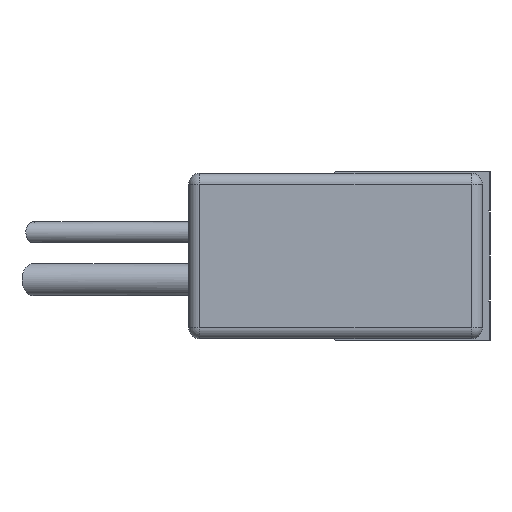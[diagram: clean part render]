
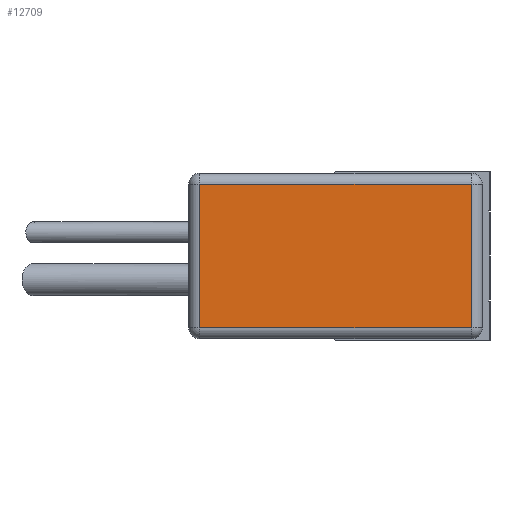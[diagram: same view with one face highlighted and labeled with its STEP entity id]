
A CAD part, left-side view. The second image highlights one B-rep face of the part: STEP entity #12709.
In plain terms, the highlighted planar face has unit normal (-1, 0, 0) as drawn and (0, 0, -1) by its records, which use the part's own axes.
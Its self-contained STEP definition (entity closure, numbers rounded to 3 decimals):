
#782=PLANE('',#20833);
#2400=VERTEX_POINT('',#19588);
#2401=VERTEX_POINT('',#19592);
#2405=VERTEX_POINT('',#19600);
#2410=VERTEX_POINT('',#19613);
#3748=VECTOR('',#15866,1.);
#3750=VECTOR('',#15870,1.);
#3752=VECTOR('',#15874,1.);
#3755=VECTOR('',#15881,1.);
#5077=LINE('',#19625,#3748);
#5079=LINE('',#19628,#3750);
#5081=LINE('',#19631,#3752);
#5084=LINE('',#19636,#3755);
#6818=EDGE_CURVE('',#2401,#2410,#5077,.T.);
#6820=EDGE_CURVE('',#2410,#2405,#5079,.T.);
#6822=EDGE_CURVE('',#2405,#2400,#5081,.T.);
#6825=EDGE_CURVE('',#2400,#2401,#5084,.T.);
#10315=ORIENTED_EDGE('',*,*,#6818,.F.);
#10316=ORIENTED_EDGE('',*,*,#6825,.F.);
#10317=ORIENTED_EDGE('',*,*,#6822,.F.);
#10318=ORIENTED_EDGE('',*,*,#6820,.F.);
#11187=EDGE_LOOP('',(#10315,#10316,#10317,#10318));
#11994=FACE_BOUND('',#11187,.T.);
#12709=ADVANCED_FACE('',(#11994),#782,.T.);
#15866=DIRECTION('',(0.,-1.,0.));
#15870=DIRECTION('',(1.,0.,0.));
#15874=DIRECTION('',(0.,1.,0.));
#15881=DIRECTION('',(-1.,0.,0.));
#15903=DIRECTION('',(0.,0.,-1.));
#19588=CARTESIAN_POINT('',(1.9,5.2,-9.1));
#19592=CARTESIAN_POINT('',(-1.9,5.2,-9.1));
#19600=CARTESIAN_POINT('',(1.9,-2.,-9.1));
#19613=CARTESIAN_POINT('',(-1.9,-2.,-9.1));
#19625=CARTESIAN_POINT('',(-1.9,3.125,-9.1));
#19628=CARTESIAN_POINT('',(-2.,-2.,-9.1));
#19631=CARTESIAN_POINT('',(1.9,0.1,-9.1));
#19636=CARTESIAN_POINT('',(-1.1,5.2,-9.1));
#19663=CARTESIAN_POINT('',(-2.2,2.1,-9.1));
#20833=AXIS2_PLACEMENT_3D('',#19663,#15903,$);
